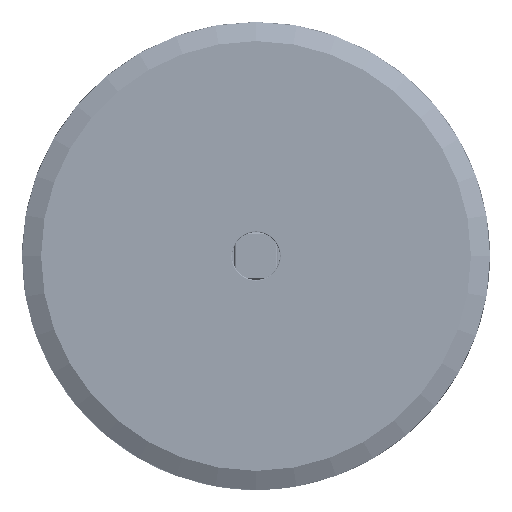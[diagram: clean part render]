
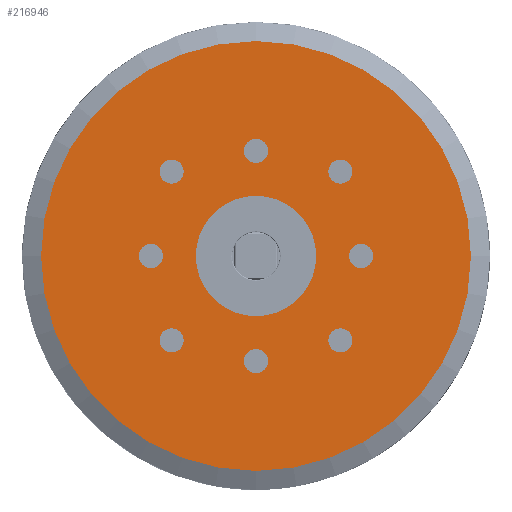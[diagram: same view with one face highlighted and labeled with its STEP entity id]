
A CAD part, left-side view. The second image highlights one B-rep face of the part: STEP entity #216946.
In plain terms, the highlighted planar face has unit normal (-1, 0, 0).
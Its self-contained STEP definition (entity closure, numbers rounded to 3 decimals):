
#16277=FACE_BOUND('',#46437,.T.);
#16278=FACE_BOUND('',#46438,.T.);
#16279=FACE_BOUND('',#46439,.T.);
#16280=FACE_BOUND('',#46440,.T.);
#16281=FACE_BOUND('',#46441,.T.);
#16282=FACE_BOUND('',#46442,.T.);
#16283=FACE_BOUND('',#46443,.T.);
#16284=FACE_BOUND('',#46444,.T.);
#16285=FACE_BOUND('',#46445,.T.);
#23497=PLANE('',#230182);
#33998=FACE_OUTER_BOUND('',#46436,.T.);
#46436=EDGE_LOOP('',(#199135));
#46437=EDGE_LOOP('',(#199136));
#46438=EDGE_LOOP('',(#199137));
#46439=EDGE_LOOP('',(#199138));
#46440=EDGE_LOOP('',(#199139));
#46441=EDGE_LOOP('',(#199140));
#46442=EDGE_LOOP('',(#199141));
#46443=EDGE_LOOP('',(#199142));
#46444=EDGE_LOOP('',(#199143));
#46445=EDGE_LOOP('',(#199144));
#93939=CIRCLE('',#230183,22.5);
#93940=CIRCLE('',#230184,1.265);
#93941=CIRCLE('',#230185,1.265);
#93942=CIRCLE('',#230186,1.265);
#93943=CIRCLE('',#230187,1.265);
#93944=CIRCLE('',#230188,1.265);
#93945=CIRCLE('',#230189,1.265);
#93946=CIRCLE('',#230190,1.265);
#93947=CIRCLE('',#230191,1.265);
#93948=CIRCLE('',#230192,6.3);
#111982=VERTEX_POINT('',#395137);
#111983=VERTEX_POINT('',#395139);
#111984=VERTEX_POINT('',#395141);
#111985=VERTEX_POINT('',#395143);
#111986=VERTEX_POINT('',#395145);
#111987=VERTEX_POINT('',#395147);
#111988=VERTEX_POINT('',#395149);
#111989=VERTEX_POINT('',#395151);
#111990=VERTEX_POINT('',#395153);
#111991=VERTEX_POINT('',#395155);
#141400=EDGE_CURVE('',#111982,#111982,#93939,.T.);
#141401=EDGE_CURVE('',#111983,#111983,#93940,.T.);
#141402=EDGE_CURVE('',#111984,#111984,#93941,.T.);
#141403=EDGE_CURVE('',#111985,#111985,#93942,.T.);
#141404=EDGE_CURVE('',#111986,#111986,#93943,.T.);
#141405=EDGE_CURVE('',#111987,#111987,#93944,.T.);
#141406=EDGE_CURVE('',#111988,#111988,#93945,.T.);
#141407=EDGE_CURVE('',#111989,#111989,#93946,.T.);
#141408=EDGE_CURVE('',#111990,#111990,#93947,.T.);
#141409=EDGE_CURVE('',#111991,#111991,#93948,.T.);
#199135=ORIENTED_EDGE('',*,*,#141400,.T.);
#199136=ORIENTED_EDGE('',*,*,#141401,.T.);
#199137=ORIENTED_EDGE('',*,*,#141402,.T.);
#199138=ORIENTED_EDGE('',*,*,#141403,.T.);
#199139=ORIENTED_EDGE('',*,*,#141404,.T.);
#199140=ORIENTED_EDGE('',*,*,#141405,.T.);
#199141=ORIENTED_EDGE('',*,*,#141406,.T.);
#199142=ORIENTED_EDGE('',*,*,#141407,.T.);
#199143=ORIENTED_EDGE('',*,*,#141408,.T.);
#199144=ORIENTED_EDGE('',*,*,#141409,.F.);
#216946=ADVANCED_FACE('',(#33998,#16277,#16278,#16279,#16280,#16281,#16282,
#16283,#16284,#16285),#23497,.F.);
#230182=AXIS2_PLACEMENT_3D('',#395136,#274355,#274356);
#230183=AXIS2_PLACEMENT_3D('',#395138,#274357,#274358);
#230184=AXIS2_PLACEMENT_3D('',#395140,#274359,#274360);
#230185=AXIS2_PLACEMENT_3D('',#395142,#274361,#274362);
#230186=AXIS2_PLACEMENT_3D('',#395144,#274363,#274364);
#230187=AXIS2_PLACEMENT_3D('',#395146,#274365,#274366);
#230188=AXIS2_PLACEMENT_3D('',#395148,#274367,#274368);
#230189=AXIS2_PLACEMENT_3D('',#395150,#274369,#274370);
#230190=AXIS2_PLACEMENT_3D('',#395152,#274371,#274372);
#230191=AXIS2_PLACEMENT_3D('',#395154,#274373,#274374);
#230192=AXIS2_PLACEMENT_3D('',#395156,#274375,#274376);
#274355=DIRECTION('center_axis',(1.,0.,0.));
#274356=DIRECTION('ref_axis',(0.,0.,-1.));
#274357=DIRECTION('center_axis',(-1.,0.,0.));
#274358=DIRECTION('ref_axis',(0.,0.,1.));
#274359=DIRECTION('center_axis',(1.,0.,0.));
#274360=DIRECTION('ref_axis',(0.,-1.,0.));
#274361=DIRECTION('center_axis',(1.,0.,0.));
#274362=DIRECTION('ref_axis',(0.,-1.,0.));
#274363=DIRECTION('center_axis',(1.,0.,0.));
#274364=DIRECTION('ref_axis',(0.,-1.,0.));
#274365=DIRECTION('center_axis',(1.,0.,0.));
#274366=DIRECTION('ref_axis',(0.,-1.,0.));
#274367=DIRECTION('center_axis',(1.,0.,0.));
#274368=DIRECTION('ref_axis',(0.,-1.,0.));
#274369=DIRECTION('center_axis',(1.,0.,0.));
#274370=DIRECTION('ref_axis',(0.,-1.,0.));
#274371=DIRECTION('center_axis',(1.,0.,0.));
#274372=DIRECTION('ref_axis',(0.,-1.,0.));
#274373=DIRECTION('center_axis',(1.,0.,0.));
#274374=DIRECTION('ref_axis',(0.,-1.,0.));
#274375=DIRECTION('center_axis',(-1.,0.,0.));
#274376=DIRECTION('ref_axis',(0.,0.,1.));
#395136=CARTESIAN_POINT('Origin',(0.,6.3,0.));
#395137=CARTESIAN_POINT('',(0.,0.,
22.5));
#395138=CARTESIAN_POINT('Origin',(0.,0.,0.));
#395139=CARTESIAN_POINT('',(0.,10.103,-8.839));
#395140=CARTESIAN_POINT('Origin',(0.,8.839,-8.839));
#395141=CARTESIAN_POINT('',(0.,-7.574,-8.839));
#395142=CARTESIAN_POINT('Origin',(0.,-8.839,-8.839));
#395143=CARTESIAN_POINT('',(0.,-7.574,8.839));
#395144=CARTESIAN_POINT('Origin',(0.,-8.839,8.839));
#395145=CARTESIAN_POINT('',(0.,10.103,8.839));
#395146=CARTESIAN_POINT('Origin',(0.,8.839,8.839));
#395147=CARTESIAN_POINT('',(0.,1.265,11.));
#395148=CARTESIAN_POINT('Origin',(0.,0.,11.));
#395149=CARTESIAN_POINT('',(0.,-9.736,0.));
#395150=CARTESIAN_POINT('Origin',(0.,-11.,0.));
#395151=CARTESIAN_POINT('',(0.,1.265,-11.));
#395152=CARTESIAN_POINT('Origin',(0.,0.,-11.));
#395153=CARTESIAN_POINT('',(0.,12.265,0.));
#395154=CARTESIAN_POINT('Origin',(0.,11.,0.));
#395155=CARTESIAN_POINT('',(0.,0.,-6.3));
#395156=CARTESIAN_POINT('Origin',(0.,0.,0.));
